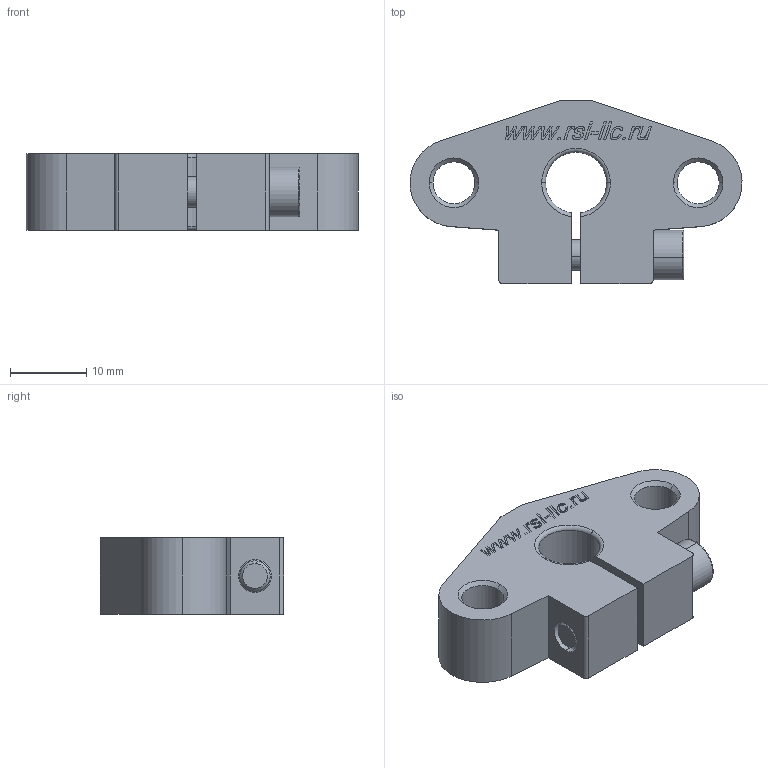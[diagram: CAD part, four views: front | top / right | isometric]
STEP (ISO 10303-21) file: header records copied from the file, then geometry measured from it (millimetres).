
FILE_DESCRIPTION (( 'STEP AP214' ), '1' );
FILE_NAME ('SHF8 Ãîðèçîíòàëüíûé äåðæàòåëü âàëà.STEP', '2020-08-12T07:03:21', ( '' ), ( '' ), 'SwSTEP 2.0', 'SolidWorks 2018', '' );
FILE_SCHEMA (( 'AUTOMOTIVE_DESIGN' ));
Length unit declared in the file: millimetre
Products named in the file (3): SHF8-02_Œ4å20; SHF8-01; SHF8 Ãîðèçîíòàëüíûé äåðæàòåëü âàëà
Assembly tree (2 placements, depth 2):
  SHF8 Ãîðèçîíòàëüíûé äåðæàòåëü âàëà
    SHF8-01
    SHF8-02_Œ4å20
Bounding box: 43.49 x 24 x 10 mm (x, y, z)
Volume: 6052 mm3; surface area: 3768.4 mm2
Topology: 2 solids, 2 shells, 236 faces, 614 edges, 397 vertices
Faces by surface type: plane 146, bspline 38, cylinder 26, cone 16, torus 10
Entity records: 11034 total; most frequent: CARTESIAN_POINT 3596, ORIENTED_EDGE 1224, DIRECTION 1024, EDGE_CURVE 612, VECTOR 446, LINE 446, VERTEX_POINT 397, AXIS2_PLACEMENT_3D 289
